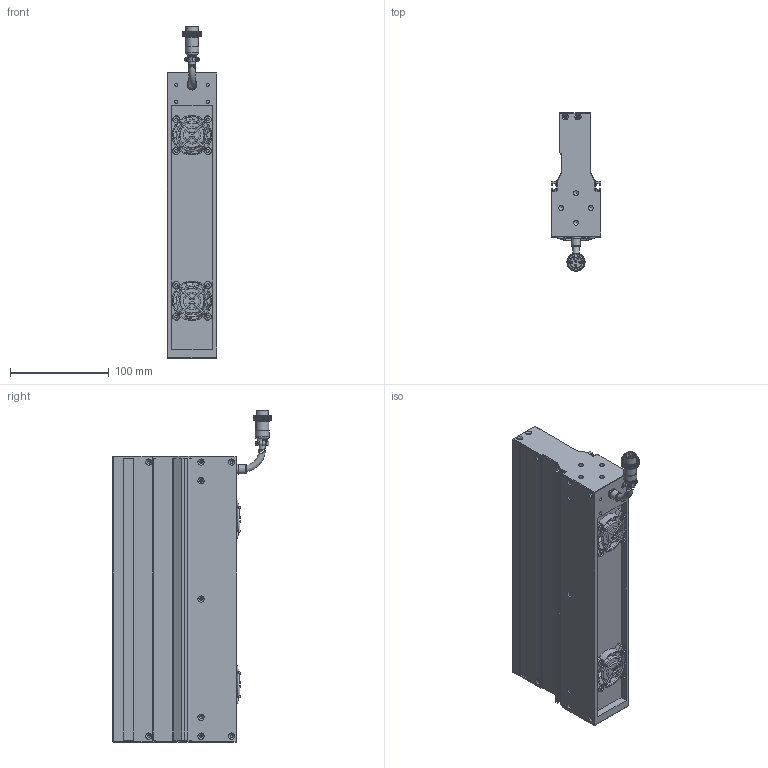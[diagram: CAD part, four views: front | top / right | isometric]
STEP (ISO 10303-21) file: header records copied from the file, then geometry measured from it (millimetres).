
FILE_DESCRIPTION (( 'STEP AP203' ), '1' );
FILE_NAME ('OPT-LSSC290-R-V3.1尨砩芞.STEP', '2025-02-05T02:55:07', ( 'USER' ), ( '' ), 'SwSTEP 2.0', 'SolidWorks 2016', '' );
FILE_SCHEMA (( 'CONFIG_CONTROL_DESIGN' ));
Products named in the file (2): OPT-LSSC290-R-V3.1尨砩芞
Bounding box: 50 x 160.65 x 336.83 mm (x, y, z)
Volume: 1174779.6 mm3; surface area: 203492.1 mm2
Topology: 13 solids, 21 shells, 3675 faces, 8101 edges, 4545 vertices
Faces by surface type: bspline 2113, cylinder 731, plane 712, cone 67, torus 52
Full cylindrical faces by diameter (mm): 0.95 x6, 1.6 x8, 2 x6, 2.5 x22, 3.2 x12, 3.4 x24, 4 x4, 5 x8, 6.2 x8, 6.4 x3, 7.5 x1, 8.6 x1, 9.3 x1, 9.8 x1, 10 x1, 13.2 x1, 14 x1, 16.1 x1, 24.8 x2, 38 x2
Entity records: 123719 total; most frequent: CARTESIAN_POINT 62991, ORIENTED_EDGE 15606, EDGE_CURVE 7803, DIRECTION 5854, B_SPLINE_CURVE_WITH_KNOTS 5578, VERTEX_POINT 4473, EDGE_LOOP 4004, FACE_OUTER_BOUND 3832
